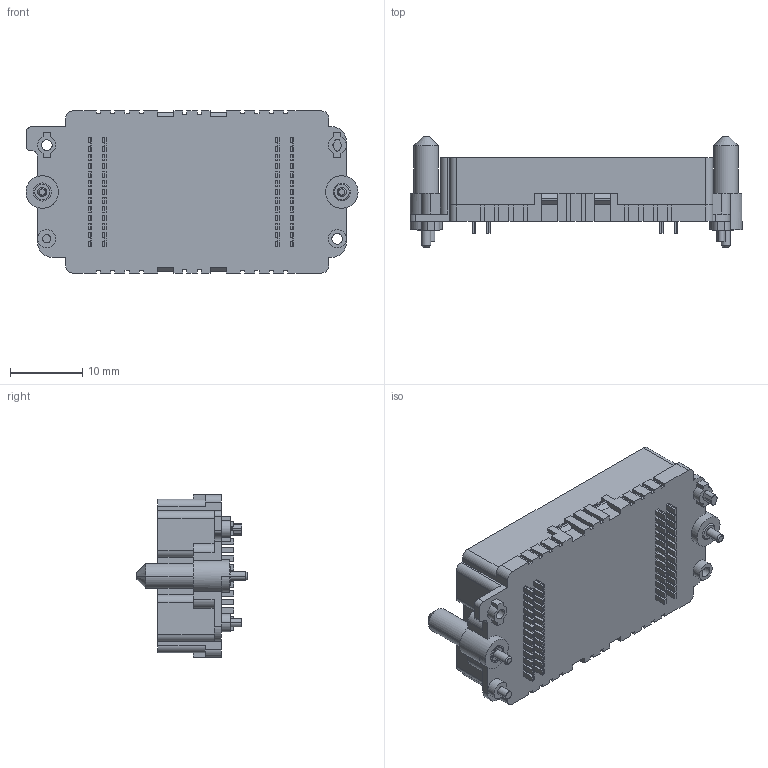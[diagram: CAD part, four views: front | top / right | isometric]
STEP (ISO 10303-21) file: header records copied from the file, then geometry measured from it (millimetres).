
FILE_DESCRIPTION((''),'2;1');
FILE_NAME('458300215','2016-11-11T',('rlalsangi'),(''),'PRO/ENGINEER BY PARAMETRIC TECHNOLOGY CORPORATION, 2012310','PRO/ENGINEER BY PARAMETRIC TECHNOLOGY CORPORATION, 2012310','');
FILE_SCHEMA(('CONFIG_CONTROL_DESIGN'));
Length unit declared in the file: millimetre
Products named in the file (1): 458300215
Bounding box: 46.06 x 15.34 x 22.5 mm (x, y, z)
Volume: 4345 mm3; surface area: 4483.6 mm2
Topology: 1 solids, 1 shells, 1066 faces, 2983 edges, 2045 vertices
Faces by surface type: plane 996, cylinder 60, cone 10
Entity records: 33359 total; most frequent: CARTESIAN_POINT 5848, ORIENTED_EDGE 5488, DIRECTION 5371, EDGE_CURVE 2744, VECTOR 2727, LINE 2727, VERTEX_POINT 1795, AXIS2_PLACEMENT_3D 1322
